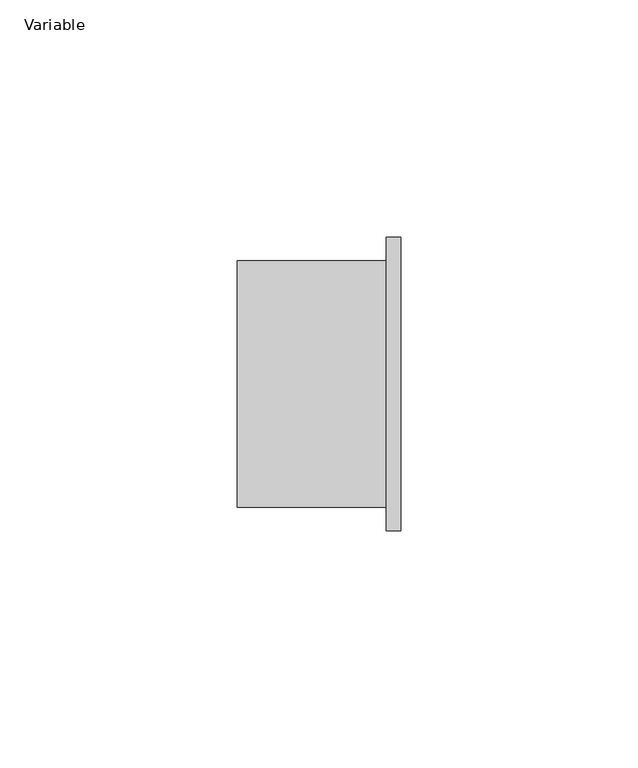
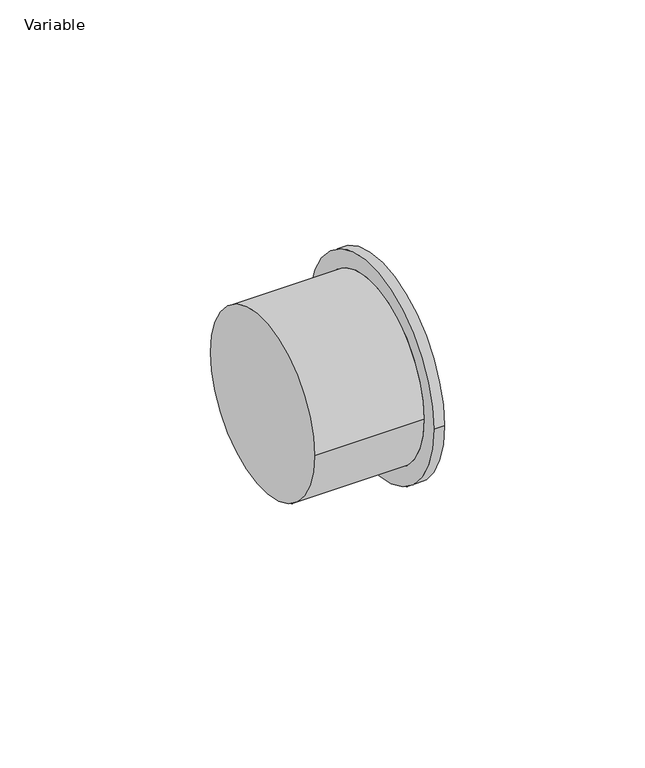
"""IFC4 building model written with IfcOpenShell, lengths in millimetres: pipe fitting geometry, AliaxisFR_Friaphon_Cap_FR : Variable."""

import ifcopenshell
import ifcopenshell.guid

model = None  # the IFC model being written
_history = None  # IfcOwnerHistory: only IFC2X3 demands one
_inside = {}  # id of a spatial element -> (the spatial element, [elements in it])
_under = {}  # id of a project, library or spatial element -> (it, [spatial elements below it])
_declared = {}  # id of a project -> (the project, [libraries it declares])
_typed = {}  # id of a type object -> (the type object, [elements of that type])
_made_of = {}  # id of a material, layer set ... -> (it, [elements and type objects made of it])


def new_model(schema):
    """Start an empty IFC model of exactly this schema.

    Asked for "IFC4X3", IfcOpenShell would pick the latest addendum, in which some entities
    have other attributes; the version numbers below select the first issue.
    IFC2X3 requires an IfcOwnerHistory on every rooted entity: one is made here for all.
    """
    global model, _history
    if schema == "IFC4X3":
        model = ifcopenshell.file(schema_version=(4, 3, 0, 0))
    else:
        model = ifcopenshell.file(schema=schema)
    _inside.clear()
    _under.clear()
    _declared.clear()
    _typed.clear()
    _made_of.clear()
    _history = None
    if model.schema == "IFC2X3":
        org = make("IfcOrganization", Name="unknown")
        user = make(
            "IfcPersonAndOrganization",
            ThePerson=make("IfcPerson", FamilyName="unknown"),
            TheOrganization=org,
        )
        app = make(
            "IfcApplication",
            ApplicationDeveloper=org,
            Version="unknown",
            ApplicationFullName="unknown",
            ApplicationIdentifier="unknown",
        )
        _history = make(
            "IfcOwnerHistory",
            OwningUser=user,
            OwningApplication=app,
            ChangeAction="ADDED",
            CreationDate=0,
        )
    return model


def make(cls, **values):
    """One entity of the class cls with the attributes given. An attribute that is None is left unset."""
    return model.create_entity(
        cls, **{name: value for name, value in values.items() if value is not None}
    )


def rooted(cls, **values):
    """An entity with a GlobalId (a new one), such as an element, a storey or a relation."""
    return make(cls, GlobalId=ifcopenshell.guid.new(), OwnerHistory=_history, **values)


def si_unit(unit_type, name, prefix=None):
    """IfcSIUnit, for example si_unit("LENGTHUNIT", "METRE", prefix="MILLI")."""
    return make("IfcSIUnit", UnitType=unit_type, Prefix=prefix, Name=name)


def assignment(units):
    """IfcUnitAssignment: the units of a project."""
    return None if units is None else make("IfcUnitAssignment", Units=units)


def point(xyz):
    """IfcCartesianPoint."""
    return None if xyz is None else make("IfcCartesianPoint", Coordinates=xyz)


def direction(xyz):
    """IfcDirection."""
    return None if xyz is None else make("IfcDirection", DirectionRatios=xyz)


def frame(location, z_axis=None, x_axis=None):
    """IfcAxis2Placement3D, a coordinate frame: its origin and axes. An axis left out is left unset."""
    return make(
        "IfcAxis2Placement3D",
        Location=point(location),
        Axis=direction(z_axis),
        RefDirection=direction(x_axis),
    )


def origin():
    """The frame at (0, 0, 0) with its axes left unset."""
    return frame((0.0, 0.0, 0.0))


def place(relative_to, where):
    """IfcLocalPlacement: puts the frame where relative to a parent placement (None: the world)."""
    return make(
        "IfcLocalPlacement", PlacementRelTo=relative_to, RelativePlacement=where
    )


def context(
    kind, dimensions, precision=None, world=None, true_north=None, identifier=None
):
    """IfcGeometricRepresentationContext, for example the 3D "Model" context."""
    return make(
        "IfcGeometricRepresentationContext",
        ContextIdentifier=identifier,
        ContextType=kind,
        CoordinateSpaceDimension=dimensions,
        Precision=precision,
        WorldCoordinateSystem=world,
        TrueNorth=true_north,
    )


def project(units=None, contexts=None):
    """IfcProject with its units and contexts."""
    return rooted(
        "IfcProject",
        Name="project",
        RepresentationContexts=contexts,
        UnitsInContext=assignment(units),
    )


def spatial(cls, under=None, at=None, **own):
    """A site, building, storey or space (cls), placed at a placement, below another one or the project."""
    s = rooted(cls, ObjectPlacement=at, **own)
    if under is not None:
        _under.setdefault(under.id(), (under, []))[1].append(s)
    return s


def circle_curve(where, radius):
    """IfcCircle in the frame where."""
    return make("IfcCircle", Position=where, Radius=radius)


def shape(context_of_items, identifier, shape_type, items):
    """IfcShapeRepresentation: the items that make up one representation, for example the "Body"."""
    return make(
        "IfcShapeRepresentation",
        ContextOfItems=context_of_items,
        RepresentationIdentifier=identifier,
        RepresentationType=shape_type,
        Items=items,
    )


def source(mapping_origin, context_of_items, identifier, shape_type, items):
    """IfcRepresentationMap: a shape defined once, which mapped items show again and again."""
    return make(
        "IfcRepresentationMap",
        MappingOrigin=mapping_origin,
        MappedRepresentation=shape(context_of_items, identifier, shape_type, items),
    )


def transform(
    local_origin,
    x_axis=None,
    y_axis=None,
    z_axis=None,
    scale=None,
    scale2=None,
    scale3=None,
    uniform=True,
):
    """IfcCartesianTransformationOperator3D, or its non-uniform kind. x_axis, y_axis, z_axis: its Axis1, 2, 3."""
    if uniform:
        return make(
            "IfcCartesianTransformationOperator3D",
            Axis1=direction(x_axis),
            Axis2=direction(y_axis),
            LocalOrigin=point(local_origin),
            Scale=scale,
            Axis3=direction(z_axis),
        )
    return make(
        "IfcCartesianTransformationOperator3DnonUniform",
        Axis1=direction(x_axis),
        Axis2=direction(y_axis),
        LocalOrigin=point(local_origin),
        Scale=scale,
        Axis3=direction(z_axis),
        Scale2=scale2,
        Scale3=scale3,
    )


def mapped(mapping_source, mapping_target):
    """IfcMappedItem: shows the shape of a source again, moved by a transform."""
    return make(
        "IfcMappedItem", MappingSource=mapping_source, MappingTarget=mapping_target
    )


def made_of(thing, what):
    """Note that an element or type object is made of a material, layer set ...; save() writes the relation."""
    if what is not None:
        _made_of.setdefault(what.id(), (what, []))[1].append(thing)
    return thing


def element(
    cls,
    number,
    at=None,
    inside=None,
    cuts=None,
    type_object=None,
    material=None,
    context=None,
    identifier="Body",
    shape_type=None,
    held_by="IfcProductDefinitionShape",
    body=None,
    shapes=None,
    **own,
):
    """One element of the class cls, such as IfcWall. Its Tag is "e" and its number.

    at: its placement. inside: the storey or other place that contains it. cuts: it is an
    opening in that element (IfcRelVoidsElement). A single representation is given by context,
    identifier, shape_type and body (its items); several are given by shapes. held_by: the class
    of the entity that holds the representations. save() writes the other relations.
    """
    e = rooted(cls, Tag="e%d" % number, ObjectPlacement=at, **own)
    if body is not None:
        shapes = [shape(context, identifier, shape_type, body)]
    if shapes is not None:
        e.Representation = make(held_by, Representations=shapes)
    if inside is not None:
        _inside.setdefault(inside.id(), (inside, []))[1].append(e)
    if cuts is not None:
        rooted(
            "IfcRelVoidsElement", RelatingBuildingElement=cuts, RelatedOpeningElement=e
        )
    if type_object is not None:
        _typed.setdefault(type_object.id(), (type_object, []))[1].append(e)
    return made_of(e, material)


def aggregate(whole, parts):
    """IfcRelAggregates: a whole, such as a stair, and the parts it consists of."""
    return rooted("IfcRelAggregates", RelatingObject=whole, RelatedObjects=parts)


def save(model, path):
    """Write the relations noted so far, then the file.

    IfcRelAggregates (storeys below a building ...), IfcRelContainedInSpatialStructure (elements
    in a storey), IfcRelDefinesByType, IfcRelAssociatesMaterial and IfcRelDeclares: one each for
    every whole, place, type object, material and project.
    """
    for whole, parts in _under.values():
        aggregate(whole, parts)
    for where, things in _inside.values():
        rooted(
            "IfcRelContainedInSpatialStructure",
            RelatedElements=things,
            RelatingStructure=where,
        )
    for kind, things in _typed.values():
        rooted("IfcRelDefinesByType", RelatedObjects=things, RelatingType=kind)
    for what, things in _made_of.values():
        rooted("IfcRelAssociatesMaterial", RelatedObjects=things, RelatingMaterial=what)
    for by, libraries in _declared.values():
        rooted("IfcRelDeclares", RelatingContext=by, RelatedDefinitions=libraries)
    model.write(path)


def plane_surface(at):
    """IfcPlane: the flat surface through the origin of the frame at, square to its z axis."""
    return make("IfcPlane", Position=at)


def cylinder_surface(at, radius):
    """IfcCylindricalSurface: all points at the distance radius from the z axis of the frame at."""
    return make("IfcCylindricalSurface", Position=at, Radius=radius)


def advanced_brep(points, edges, surfaces, faces):
    """IfcAdvancedBrep: a solid bounded by faces that lie on surfaces and meet in shared edges.

    An edge is (start, end): straight between two places in points (the first is 0);
    or (start, end, curve); or (start, end, curve, False) where it runs against its curve.
    A face is (place in surfaces, loops), or (place, loops, False) where it looks against
    its surface's normal. A loop lists edges by number (the first is 1), with a minus sign
    where the edge is run from its end to its start. The first loop is the outer one.
    """
    corners = [point(p) for p in points]
    vertices = [make("IfcVertexPoint", VertexGeometry=c) for c in corners]
    made = []
    for start, end, *more in edges:
        made.append(
            make(
                "IfcEdgeCurve",
                EdgeStart=vertices[start],
                EdgeEnd=vertices[end],
                EdgeGeometry=more[0] if more else make("IfcPolyline", Points=[corners[start], corners[end]]),
                SameSense=more[1] if len(more) > 1 else True,
            )
        )
    hull = []
    for where, loops, *sense in faces:
        bounds = []
        for j, loop in enumerate(loops):
            ring = [make("IfcOrientedEdge", EdgeElement=made[abs(k) - 1], Orientation=k > 0) for k in loop]
            bounds.append(
                make(
                    "IfcFaceOuterBound" if j == 0 else "IfcFaceBound",
                    Bound=make("IfcEdgeLoop", EdgeList=ring),
                    Orientation=True,
                )
            )
        hull.append(make("IfcAdvancedFace", Bounds=bounds, FaceSurface=surfaces[where], SameSense=sense[0] if sense else True))
    return make("IfcAdvancedBrep", Outer=make("IfcClosedShell", CfsFaces=hull))


def variable_7ff62537(model_context):
    return source(origin(), model_context, "Body", "AdvancedBrep", [
        advanced_brep(
        [(14.5, -26.0, 0.0), (14.5, 26.0, 0.0), (49.0, -31.0, 0.0), (49.0, 31.0, 0.0), (46.0, -31.0, 0.0), (46.0, 31.0, 0.0), (46.0, -26.0, 0.0), (46.0, 26.0, 0.0)],
        [
            (0, 1, circle_curve(frame((14.5, 0.0, 0.0), z_axis=(-1.0, 0.0, 0.0), x_axis=(0.0, 1.0, 0.0)), 26.0)),
            (1, 0, circle_curve(frame((14.5, 0.0, 0.0), z_axis=(-1.0, 0.0, 0.0), x_axis=(0.0, 1.0, 0.0)), 26.0)),
            (2, 3, circle_curve(frame((49.0, 0.0, 0.0), z_axis=(1.0, 0.0, 0.0), x_axis=(0.0, 1.0, 0.0)), 31.0)),
            (3, 2, circle_curve(frame((49.0, 0.0, 0.0), z_axis=(1.0, 0.0, 0.0), x_axis=(0.0, 1.0, 0.0)), 31.0)),
            (4, 5, circle_curve(frame((46.0, 0.0, 0.0), z_axis=(-1.0, 0.0, 0.0), x_axis=(0.0, 1.0, 0.0)), 31.0)),
            (5, 4, circle_curve(frame((46.0, 0.0, 0.0), z_axis=(-1.0, 0.0, 0.0), x_axis=(0.0, 1.0, 0.0)), 31.0)),
            (6, 7, circle_curve(frame((46.0, 0.0, 0.0), z_axis=(1.0, 0.0, 0.0), x_axis=(0.0, 1.0, 0.0)), 26.0)),
            (7, 6, circle_curve(frame((46.0, 0.0, 0.0), z_axis=(1.0, 0.0, 0.0), x_axis=(0.0, 1.0, 0.0)), 26.0)),
            (2, 4),
            (5, 3),
            (1, 7),
            (6, 0),
        ],
        [
            plane_surface(frame((14.5, 26.0, 0.0), z_axis=(-1.0, 0.0, 0.0), x_axis=(0.0, 0.0, -1.0))),
            plane_surface(frame((49.0, 31.0, 0.0), z_axis=(1.0, 0.0, 0.0), x_axis=(0.0, 0.0, 1.0))),
            plane_surface(frame((46.0, 31.0, 0.0), z_axis=(-1.0, 0.0, 0.0), x_axis=(0.0, 0.0, -1.0))),
            cylinder_surface(frame((46.0, 0.0, 0.0), z_axis=(1.0, 0.0, 0.0), x_axis=(0.0, 1.0, 0.0)), 31.0),
            cylinder_surface(frame((14.5, 0.0, 0.0), z_axis=(1.0, 0.0, 0.0), x_axis=(0.0, 1.0, 0.0)), 26.0),
        ],
        [
            (0, [[1, 2]]),
            (1, [[3, 4]]),
            (2, [[5, 6], [7, 8]]),
            (3, [[-3, 9, -6, 10]]),
            (3, [[-4, -10, -5, -9]]),
            (4, [[-2, 11, -7, 12]]),
            (4, [[-1, -12, -8, -11]]),
        ],
    ),
    ])


if __name__ == "__main__":
    model = new_model("IFC4")
    model_context = context("Model", 3, world=origin())
    ifc_project = project(units=[si_unit("LENGTHUNIT", "METRE", prefix="MILLI")], contexts=[model_context])
    site = spatial("IfcSite", under=ifc_project)
    building = spatial("IfcBuilding", under=site)
    placement = place(None, origin())
    variable_shape = variable_7ff62537(model_context)
    element("IfcPipeFitting", 1, ObjectType="AliaxisFR_Friaphon_Cap_FR : Variable", at=placement, inside=building, context=model_context, shape_type="MappedRepresentation", body=[
        mapped(variable_shape, transform((0.0, 0.0, 0.0), x_axis=(1.0, 0.0, 0.0), y_axis=(0.0, 1.0, 0.0), z_axis=(0.0, 0.0, 1.0))),
    ])
    save(model, "model.ifc")
